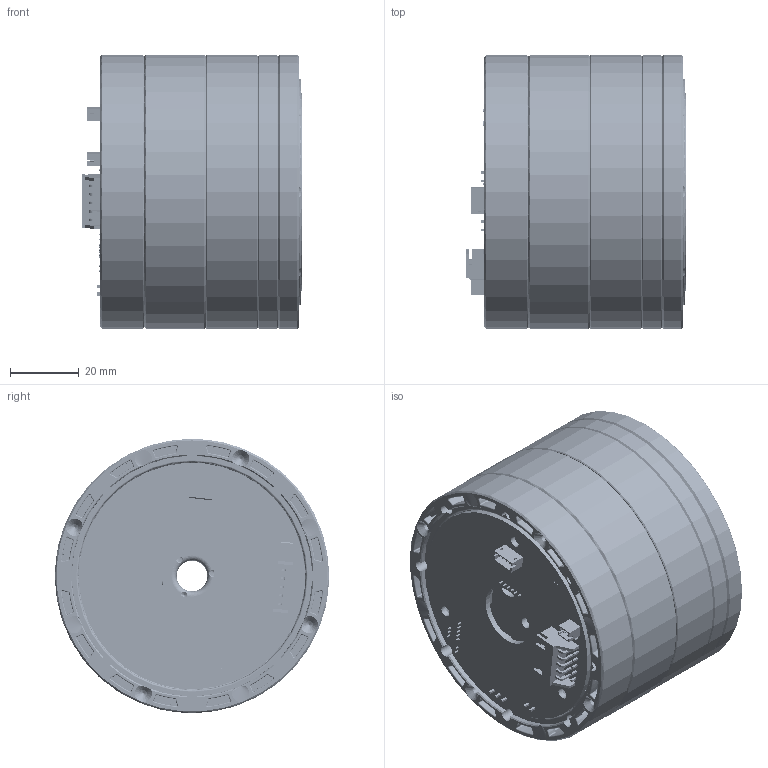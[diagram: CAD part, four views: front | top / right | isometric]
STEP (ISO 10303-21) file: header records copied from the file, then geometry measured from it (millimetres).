
FILE_DESCRIPTION(/* description */ (''),/* implementation_level */ '2;1');
FILE_NAME(/* name */ 'C:\Users\jvonderlaake\igus GmbH\T-DE-P-ReBel - ReBeL EW\12_CAD Promo\RL-SE-80_Vereinfacht.stp',/* time_stamp */ '2021-03-04T08:59:52+01:00',/* author */ ('jhellwig'),/* organization */ (''),/* preprocessor_version */ 'ST-DEVELOPER v18.1',/* originating_system */ 'Autodesk Inventor 2020',/* authorisation */ '');
FILE_SCHEMA (('AUTOMOTIVE_DESIGN { 1 0 10303 214 3 1 1 }'));
Length unit declared in the file: millimetre
Products named in the file (1): D00292451
Bounding box: 64.27 x 80 x 80 mm (x, y, z)
Volume: 142946.9 mm3; surface area: 107745.9 mm2
Topology: 140 solids, 142 shells, 10659 faces, 29363 edges, 18951 vertices
Faces by surface type: plane 6354, cylinder 2571, bspline 780, torus 414, cone 316, sphere 224
Full cylindrical faces by diameter (mm): 0.4 x3, 0.5 x71, 0.68 x2, 0.7 x35, 0.8 x1, 0.87 x3, 0.991 x3, 1 x1, 1.194 x4, 1.3 x4, 2 x14, 2.459 x17, 3 x14, 3.2 x31, 3.3 x9, 3.4 x3, 5 x6, 5.1 x8, 5.5 x8, 5.54 x6, 6 x16, 7 x5, 8 x2, 9 x1, 12 x1, 13 x1, 14.88 x4, 15 x3, 18 x1, 18.12 x4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
Entity records: 378398 total; most frequent: CARTESIAN_POINT 94894, ORIENTED_EDGE 58618, DIRECTION 54603, EDGE_CURVE 29312, LINE 19439, VECTOR 19439, VERTEX_POINT 19121, AXIS2_PLACEMENT_3D 17582
